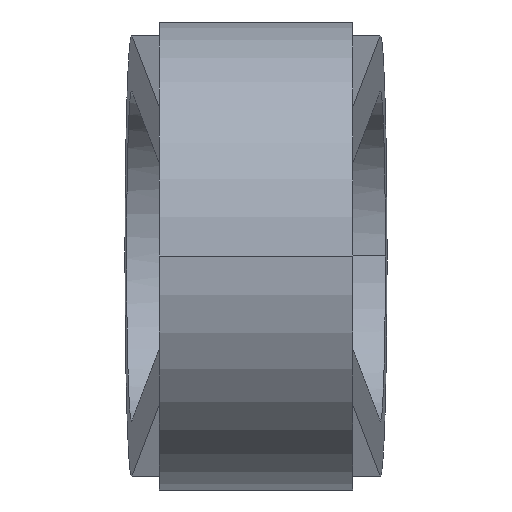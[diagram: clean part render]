
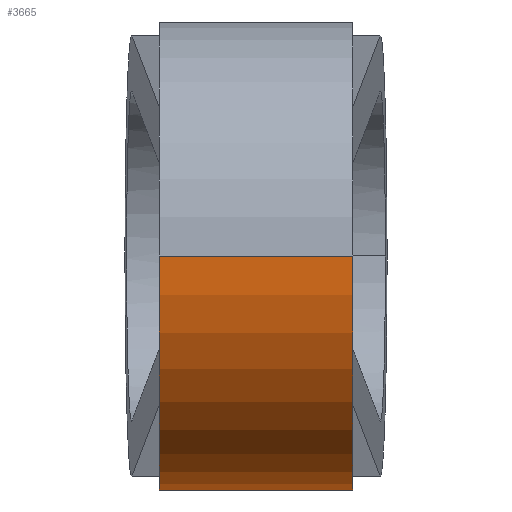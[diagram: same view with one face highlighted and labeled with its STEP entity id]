
A CAD part, left-side view. The second image highlights one B-rep face of the part: STEP entity #3665.
In plain terms, the highlighted cylindrical face has radius 17 mm (diameter 34 mm), a partial arc.
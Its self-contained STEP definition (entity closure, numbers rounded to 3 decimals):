
#2802 = AXIS2_PLACEMENT_3D ( 'NONE', #2862, #2861, #2860 ) ;
#2803 = CIRCLE ( 'NONE', #2802, 17. ) ;
#2853 = CARTESIAN_POINT ( 'NONE',  ( -178., 14., 17. ) ) ;
#2854 = DIRECTION ( 'NONE',  ( 0., 1., 0. ) ) ;
#2855 = VECTOR ( 'NONE', #2854, 1000. ) ;
#2856 = CARTESIAN_POINT ( 'NONE',  ( -178., -3., 17. ) ) ;
#2857 = LINE ( 'NONE', #2856, #2855 ) ;
#2858 = CARTESIAN_POINT ( 'NONE',  ( -178., 0., 17. ) ) ;
#2859 = CARTESIAN_POINT ( 'NONE',  ( -149.131, 0., 4.83 ) ) ;
#2860 = DIRECTION ( 'NONE',  ( -1., 0., 0. ) ) ;
#2861 = DIRECTION ( 'NONE',  ( 0., 1., 0. ) ) ;
#2862 = CARTESIAN_POINT ( 'NONE',  ( -161., 0., 17. ) ) ;
#2924 = DIRECTION ( 'NONE',  ( 0., 1., 0. ) ) ;
#2925 = VECTOR ( 'NONE', #2924, 1000. ) ;
#2926 = CARTESIAN_POINT ( 'NONE',  ( -149.131, -3., 4.83 ) ) ;
#2927 = LINE ( 'NONE', #2926, #2925 ) ;
#2928 = CARTESIAN_POINT ( 'NONE',  ( -149.131, 14., 4.83 ) ) ;
#2940 = DIRECTION ( 'NONE',  ( -1., 0., 0. ) ) ;
#2941 = DIRECTION ( 'NONE',  ( 0., 1., 0. ) ) ;
#2942 = CARTESIAN_POINT ( 'NONE',  ( -161., -3., 17. ) ) ;
#2943 = AXIS2_PLACEMENT_3D ( 'NONE', #2942, #2941, #2940 ) ;
#2945 = CYLINDRICAL_SURFACE ( 'NONE', #2943, 17. ) ;
#2946 = FACE_OUTER_BOUND ( 'NONE', #3666, .T. ) ;
#2947 = DIRECTION ( 'NONE',  ( 1., 0., 0. ) ) ;
#2948 = DIRECTION ( 'NONE',  ( 0., -1., 0. ) ) ;
#2949 = CARTESIAN_POINT ( 'NONE',  ( -161., 14., 17. ) ) ;
#2950 = AXIS2_PLACEMENT_3D ( 'NONE', #2949, #2948, #2947 ) ;
#2951 = CIRCLE ( 'NONE', #2950, 17. ) ;
#3609 = ORIENTED_EDGE ( 'NONE', *, *, #3664, .T. ) ;
#3621 = ORIENTED_EDGE ( 'NONE', *, *, #3622, .T. ) ;
#3622 = EDGE_CURVE ( 'NONE', #3623, #3624, #2803, .T. ) ;
#3623 = VERTEX_POINT ( 'NONE', #2859 ) ;
#3624 = VERTEX_POINT ( 'NONE', #2858 ) ;
#3625 = ORIENTED_EDGE ( 'NONE', *, *, #3626, .T. ) ;
#3626 = EDGE_CURVE ( 'NONE', #3624, #3627, #2857, .T. ) ;
#3627 = VERTEX_POINT ( 'NONE', #2853 ) ;
#3664 = EDGE_CURVE ( 'NONE', #3627, #3672, #2951, .T. ) ;
#3665 = ADVANCED_FACE ( 'NONE', ( #2946 ), #2945, .T. ) ;
#3666 = EDGE_LOOP ( 'NONE', ( #3621, #3625, #3609, #3673 ) ) ;
#3672 = VERTEX_POINT ( 'NONE', #2928 ) ;
#3673 = ORIENTED_EDGE ( 'NONE', *, *, #3674, .F. ) ;
#3674 = EDGE_CURVE ( 'NONE', #3623, #3672, #2927, .T. ) ;
